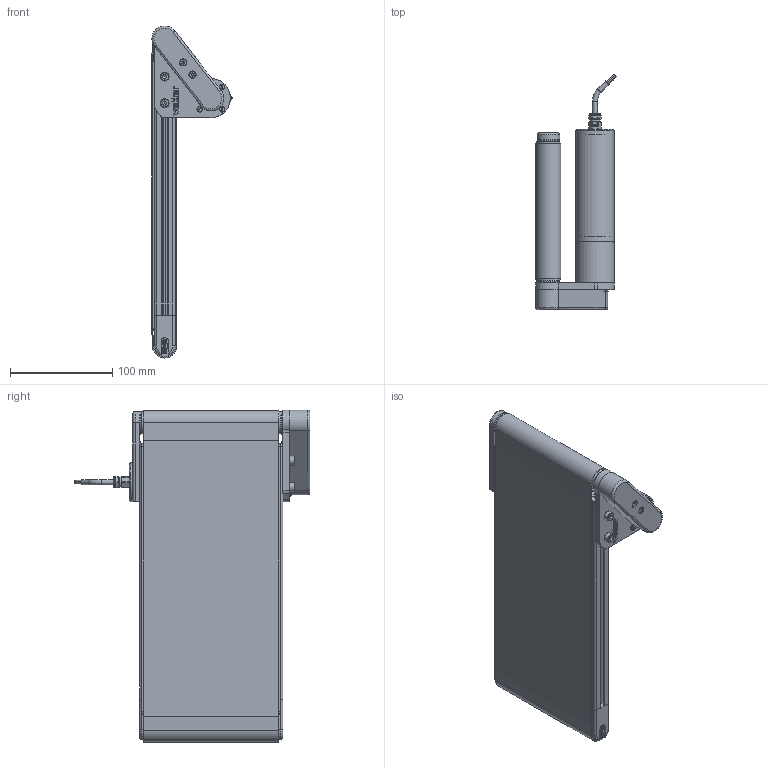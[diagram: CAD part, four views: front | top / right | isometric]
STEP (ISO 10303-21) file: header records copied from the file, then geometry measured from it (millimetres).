
FILE_DESCRIPTION(/* description */ (''),/* implementation_level */ '2;1');
FILE_NAME(/* name */ 'G:\DATEN\CAD\Förderband\Marketing\3D-Modelle (Standard)\BK-20-140\BK-20-140-1-K.stp',/* time_stamp */ '2019-05-13T08:42:46+02:00',/* author */ ('melanie.ochs'),/* organization */ (''),/* preprocessor_version */ 'ST-DEVELOPER v17',/* originating_system */ 'Autodesk Inventor 2019',/* authorisation */ '');
FILE_SCHEMA (('CONFIG_CONTROL_DESIGN'));
Products named in the file (1): BK-20-140-1-K
Bounding box: 78.41 x 230.59 x 324.51 mm (x, y, z)
Volume: 634819.6 mm3; surface area: 506364.2 mm2
Topology: 44 solids, 45 shells, 1213 faces, 3270 edges, 2207 vertices
Faces by surface type: plane 560, cylinder 455, cone 90, bspline 70, torus 38
Full cylindrical faces by diameter (mm): 1 x6, 2 x2, 2.459 x4, 2.5 x8, 2.729 x4, 3 x4, 3.1 x2, 3.242 x4, 3.5 x4, 4 x38, 4.134 x1, 4.3 x5, 4.4 x2, 4.917 x3, 5 x16, 5.2 x2, 5.4 x2, 6 x2, 6.773 x1, 6.917 x1, 7 x5, 8 x3, 8.5 x4, 8.773 x1, 9.5 x2, 10 x7, 11 x1, 12 x2, 16 x2, 19 x4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
Entity records: 48380 total; most frequent: CARTESIAN_POINT 16359, ORIENTED_EDGE 6510, DIRECTION 6316, EDGE_CURVE 3255, AXIS2_PLACEMENT_3D 2305, VERTEX_POINT 2207, LINE 1706, VECTOR 1706
